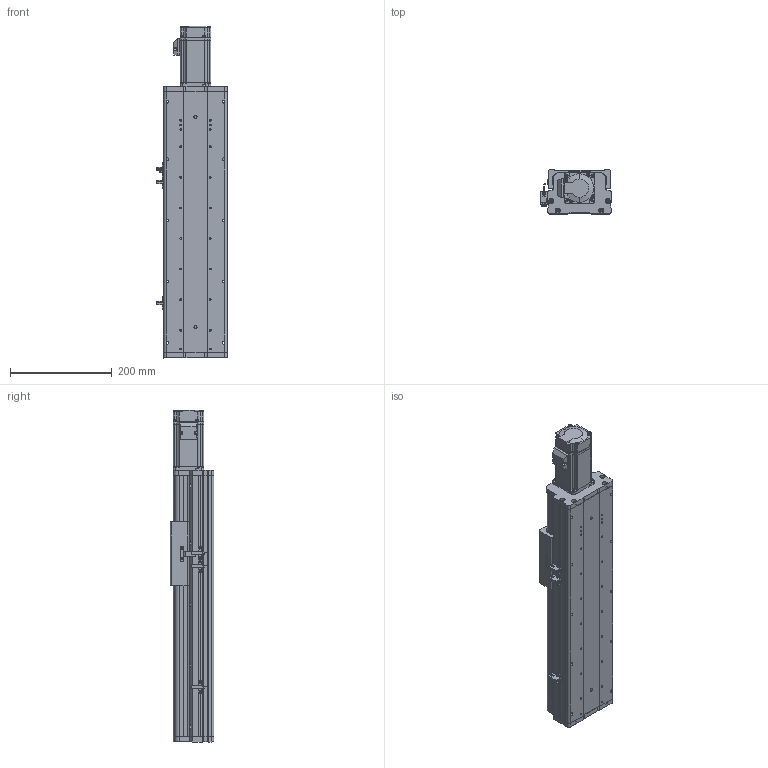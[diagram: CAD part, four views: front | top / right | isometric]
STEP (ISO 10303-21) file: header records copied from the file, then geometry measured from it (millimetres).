
FILE_DESCRIPTION (( 'STEP AP214' ), '1' );
FILE_NAME ('KSD125S-S250-MN-CM.STEP', '2017-08-07T06:07:57', ( '微软用户' ), ( '微软中国' ), 'SwSTEP 2.0', 'SolidWorks 2014', '' );
FILE_SCHEMA (( 'AUTOMOTIVE_DESIGN' ));
Length unit declared in the file: millimetre
Products named in the file (12): KSD125S-250行程丝杆防尘盖-直连不带电机座; KSD125S-250行程丝杆底板-直连不带电机座; 125宽模组 - 直连不带电机座电机安装板; MHMD042G1CA_2_03; 拸萇儂釱滅袉菜; 覜茼え68遵圉猾敕; U倰嫖萇假蚾璃; U倰嫖萇EEㄜSX672; KSD125-賑雄釱1; CS-34X32-10X14; 125-帣傷啣1; KSD125S-S250-MN-CM
Assembly tree (15 placements, depth 2):
  KSD125S-S250-MN-CM
    125-帣傷啣1
    CS-34X32-10X14
    KSD125-賑雄釱1
    U倰嫖萇EEㄜSX672  x3
    U倰嫖萇假蚾璃  x3
    覜茼え68遵圉猾敕
    拸萇儂釱滅袉菜
    MHMD042G1CA_2_03
    125宽模组 - 直连不带电机座电机安装板
    KSD125S-250行程丝杆底板-直连不带电机座
    KSD125S-250行程丝杆防尘盖-直连不带电机座
Bounding box: 138.7 x 86 x 651.5 mm (x, y, z)
Volume: 1985764.8 mm3; surface area: 667001.6 mm2
Topology: 14 solids, 17 shells, 1410 faces, 4077 edges, 2681 vertices
Faces by surface type: cylinder 684, plane 613, cone 91, bspline 22
Entity records: 49350 total; most frequent: CARTESIAN_POINT 10608, DIRECTION 6969, ORIENTED_EDGE 6662, EDGE_CURVE 3409, AXIS2_PLACEMENT_3D 2540, VERTEX_POINT 2273, VECTOR 1889, LINE 1889
